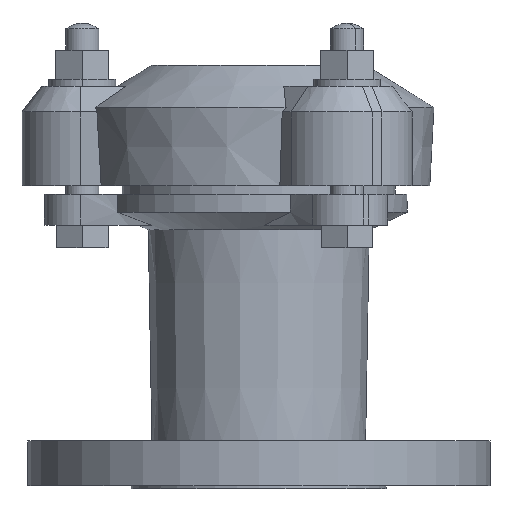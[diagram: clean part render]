
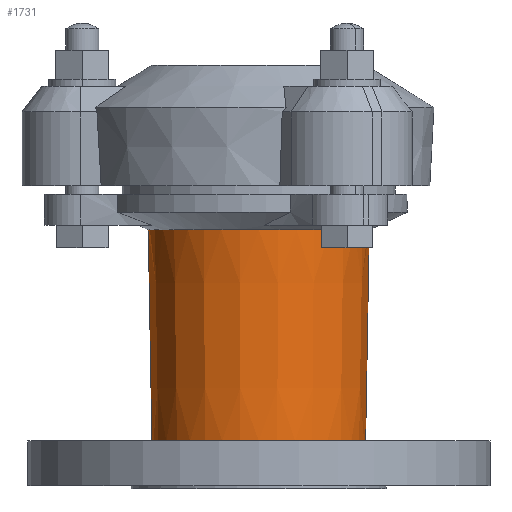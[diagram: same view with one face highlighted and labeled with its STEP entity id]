
A CAD part, left-side view. The second image highlights one B-rep face of the part: STEP entity #1731.
In plain terms, the highlighted conical face has half-angle 0.99 degrees and reference radius 38.773 mm.
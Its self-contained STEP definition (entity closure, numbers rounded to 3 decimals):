
#110=CARTESIAN_POINT('',(0.,0.,92.325));
#111=DIRECTION('',(0.,0.,1.));
#112=DIRECTION('',(0.,1.,0.));
#113=AXIS2_PLACEMENT_3D('',#110,#111,#112);
#566=DIRECTION('',(0.,0.017,1.));
#567=VECTOR('',#566,75.336);
#568=CARTESIAN_POINT('',(0.,38.122,17.));
#569=LINE('',#568,#567);
#575=DIRECTION('',(0.,-0.017,1.));
#576=VECTOR('',#575,75.336);
#577=CARTESIAN_POINT('',(0.,-38.122,17.));
#578=LINE('',#577,#576);
#579=CARTESIAN_POINT('',(0.,0.,17.));
#580=DIRECTION('',(0.,0.,1.));
#581=DIRECTION('',(0.,1.,0.));
#582=AXIS2_PLACEMENT_3D('',#579,#580,#581);
#739=CARTESIAN_POINT('',(0.,-39.423,92.325));
#741=VERTEX_POINT('',#739);
#805=CARTESIAN_POINT('',(0.,39.423,92.325));
#807=VERTEX_POINT('',#805);
#941=CARTESIAN_POINT('',(0.,38.122,17.));
#942=VERTEX_POINT('',#941);
#945=CARTESIAN_POINT('',(0.,-38.122,17.));
#946=VERTEX_POINT('',#945);
#1719=CARTESIAN_POINT('',(0.,0.,54.662));
#1720=DIRECTION('',(0.,0.,1.));
#1721=DIRECTION('',(0.,1.,0.));
#1722=AXIS2_PLACEMENT_3D('',#1719,#1720,#1721);
#1723=CONICAL_SURFACE('',#1722,38.773,0.99);
#1724=ORIENTED_EDGE('',*,*,#1709,.T.);
#1725=ORIENTED_EDGE('',*,*,#1091,.T.);
#1726=ORIENTED_EDGE('',*,*,#1713,.F.);
#1728=ORIENTED_EDGE('',*,*,#1727,.F.);
#1729=EDGE_LOOP('',(#1724,#1725,#1726,#1728));
#1730=FACE_OUTER_BOUND('',#1729,.F.);
#1731=ADVANCED_FACE('',(#1730),#1723,.T.);
#114=CIRCLE('',#113,39.423);
#583=CIRCLE('',#582,38.122);
#1091=EDGE_CURVE('',#807,#741,#114,.T.);
#1709=EDGE_CURVE('',#942,#807,#569,.T.);
#1713=EDGE_CURVE('',#946,#741,#578,.T.);
#1727=EDGE_CURVE('',#942,#946,#583,.T.);
